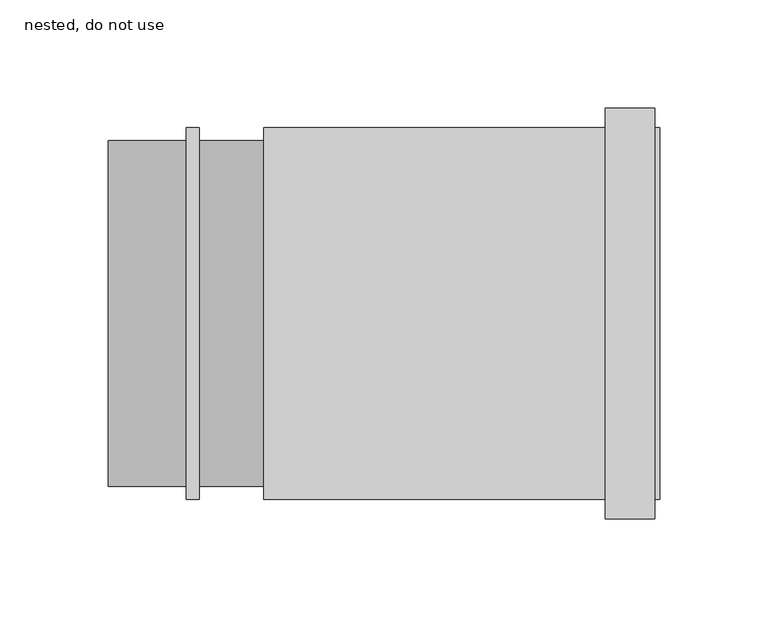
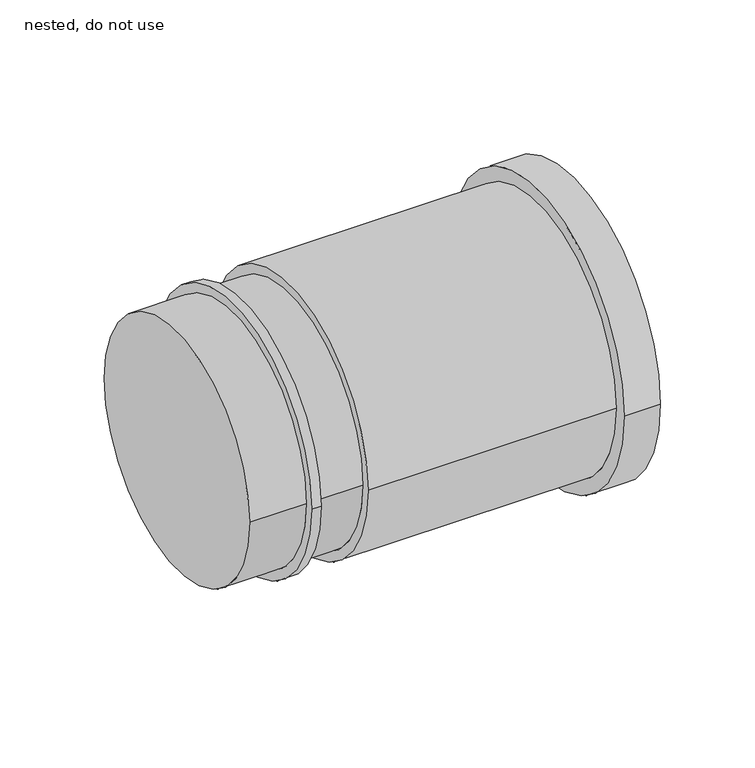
"""IFC4 building model written with IfcOpenShell, lengths in millimetres: pipe fitting geometry, ZZZ_do no use_PIF_HDPE expansion socket with anchor point -SH_Akatherm : nested, do not use."""

from ifc_helpers import new_model, si_unit, frame, origin, place, context, project, spatial, circle_curve, source, transform, mapped, element, save
from ifc_brep_helpers import plane_surface, cylinder_surface, advanced_brep


def nested_do_not_use_88acbfcf(model_context):
    return source(origin(), model_context, "Body", "AdvancedBrep", [
        advanced_brep(
        [(216.7, -95.0, 0.0), (216.7, 95.0, 0.0), (216.7, 86.0, 0.0), (216.7, -86.0, 0.0), (193.7, -95.0, 0.0), (193.7, 95.0, 0.0), (193.7, -86.0, 0.0), (193.7, 86.0, 0.0), (219.0, -86.0, 0.0), (219.0, 86.0, 0.0), (36.0, -86.0, 0.0), (36.0, 86.0, 0.0), (36.0, -80.0, 0.0), (36.0, 80.0, 0.0), (-36.0, -80.0, 0.0), (-36.0, 80.0, 0.0), (6.0, -80.0, 0.0), (6.0, 80.0, 0.0), (0.0, 80.0, 0.0), (0.0, -80.0, 0.0), (6.0, -86.0, 0.0), (6.0, 86.0, 0.0), (0.0, -86.0, 0.0), (0.0, 86.0, 0.0)],
        [
            (0, 1, circle_curve(frame((216.7, 0.0, 0.0), z_axis=(1.0, 0.0, 0.0), x_axis=(0.0, 1.0, 0.0)), 95.0)),
            (1, 0, circle_curve(frame((216.7, 0.0, 0.0), z_axis=(1.0, 0.0, 0.0), x_axis=(0.0, 1.0, 0.0)), 95.0)),
            (2, 3, circle_curve(frame((216.7, 0.0, 0.0), z_axis=(-1.0, 0.0, 0.0), x_axis=(0.0, 1.0, 0.0)), 86.0)),
            (3, 2, circle_curve(frame((216.7, 0.0, 0.0), z_axis=(-1.0, 0.0, 0.0), x_axis=(0.0, 1.0, 0.0)), 86.0)),
            (4, 5, circle_curve(frame((193.7, 0.0, 0.0), z_axis=(-1.0, 0.0, 0.0), x_axis=(0.0, 1.0, 0.0)), 95.0)),
            (5, 4, circle_curve(frame((193.7, 0.0, 0.0), z_axis=(-1.0, 0.0, 0.0), x_axis=(0.0, 1.0, 0.0)), 95.0)),
            (6, 7, circle_curve(frame((193.7, 0.0, 0.0), z_axis=(1.0, 0.0, 0.0), x_axis=(0.0, 1.0, 0.0)), 86.0)),
            (7, 6, circle_curve(frame((193.7, 0.0, 0.0), z_axis=(1.0, 0.0, 0.0), x_axis=(0.0, 1.0, 0.0)), 86.0)),
            (0, 4),
            (5, 1),
            (8, 9, circle_curve(frame((219.0, 0.0, 0.0), z_axis=(1.0, 0.0, 0.0), x_axis=(0.0, 1.0, 0.0)), 86.0)),
            (9, 8, circle_curve(frame((219.0, 0.0, 0.0), z_axis=(1.0, 0.0, 0.0), x_axis=(0.0, 1.0, 0.0)), 86.0)),
            (10, 11, circle_curve(frame((36.0, 0.0, 0.0), z_axis=(-1.0, 0.0, 0.0), x_axis=(0.0, 1.0, 0.0)), 86.0)),
            (11, 10, circle_curve(frame((36.0, 0.0, 0.0), z_axis=(-1.0, 0.0, 0.0), x_axis=(0.0, 1.0, 0.0)), 86.0)),
            (12, 13, circle_curve(frame((36.0, 0.0, 0.0), z_axis=(1.0, 0.0, 0.0), x_axis=(0.0, 1.0, 0.0)), 80.0)),
            (13, 12, circle_curve(frame((36.0, 0.0, 0.0), z_axis=(1.0, 0.0, 0.0), x_axis=(0.0, 1.0, 0.0)), 80.0)),
            (8, 3),
            (2, 9),
            (11, 7),
            (6, 10),
            (14, 15, circle_curve(frame((-36.0, 0.0, 0.0), z_axis=(-1.0, 0.0, 0.0), x_axis=(0.0, 1.0, 0.0)), 80.0)),
            (15, 14, circle_curve(frame((-36.0, 0.0, 0.0), z_axis=(-1.0, 0.0, 0.0), x_axis=(0.0, 1.0, 0.0)), 80.0)),
            (12, 16),
            (16, 17, circle_curve(frame((6.0, 0.0, 0.0), z_axis=(1.0, 0.0, 0.0), x_axis=(0.0, 1.0, 0.0)), 80.0)),
            (17, 13),
            (15, 18),
            (18, 19, circle_curve(frame((0.0, 0.0, 0.0), z_axis=(-1.0, 0.0, 0.0), x_axis=(0.0, 1.0, 0.0)), 80.0)),
            (19, 14),
            (17, 16, circle_curve(frame((6.0, 0.0, 0.0), z_axis=(1.0, 0.0, 0.0), x_axis=(0.0, 1.0, 0.0)), 80.0)),
            (19, 18, circle_curve(frame((0.0, 0.0, 0.0), z_axis=(-1.0, 0.0, 0.0), x_axis=(0.0, 1.0, 0.0)), 80.0)),
            (20, 21, circle_curve(frame((6.0, 0.0, 0.0), z_axis=(1.0, 0.0, 0.0), x_axis=(0.0, 1.0, 0.0)), 86.0)),
            (21, 20, circle_curve(frame((6.0, 0.0, 0.0), z_axis=(1.0, 0.0, 0.0), x_axis=(0.0, 1.0, 0.0)), 86.0)),
            (22, 23, circle_curve(frame((0.0, 0.0, 0.0), z_axis=(-1.0, 0.0, 0.0), x_axis=(0.0, 1.0, 0.0)), 86.0)),
            (23, 22, circle_curve(frame((0.0, 0.0, 0.0), z_axis=(-1.0, 0.0, 0.0), x_axis=(0.0, 1.0, 0.0)), 86.0)),
            (20, 22),
            (23, 21),
        ],
        [
            plane_surface(frame((216.7, 95.0, 0.0), z_axis=(1.0, 0.0, 0.0), x_axis=(0.0, 0.0, 1.0))),
            plane_surface(frame((193.7, 95.0, 0.0), z_axis=(-1.0, 0.0, 0.0), x_axis=(0.0, 0.0, -1.0))),
            cylinder_surface(frame((193.7, 0.0, 0.0), z_axis=(1.0, 0.0, 0.0), x_axis=(0.0, 1.0, 0.0)), 95.0),
            plane_surface(frame((219.0, 86.0, 0.0), z_axis=(1.0, 0.0, 0.0), x_axis=(0.0, 0.0, 1.0))),
            plane_surface(frame((36.0, 86.0, 0.0), z_axis=(-1.0, 0.0, 0.0), x_axis=(0.0, 0.0, -1.0))),
            cylinder_surface(frame((36.0, 0.0, 0.0), z_axis=(1.0, 0.0, 0.0), x_axis=(0.0, 1.0, 0.0)), 86.0),
            plane_surface(frame((-36.0, 80.0, 0.0), z_axis=(-1.0, 0.0, 0.0), x_axis=(0.0, 0.0, -1.0))),
            cylinder_surface(frame((39.0, 0.0, 0.0), z_axis=(-1.0, 0.0, 0.0), x_axis=(0.0, 1.0, 0.0)), 80.0),
            plane_surface(frame((6.0, 86.0, 0.0), z_axis=(1.0, 0.0, 0.0), x_axis=(0.0, 0.0, 1.0))),
            plane_surface(frame((0.0, 86.0, 0.0), z_axis=(-1.0, 0.0, 0.0), x_axis=(0.0, 0.0, -1.0))),
            cylinder_surface(frame((0.0, 0.0, 0.0), z_axis=(1.0, 0.0, 0.0), x_axis=(0.0, 1.0, 0.0)), 86.0),
        ],
        [
            (0, [[1, 2], [3, 4]]),
            (1, [[5, 6], [7, 8]]),
            (2, [[-1, 9, -6, 10]]),
            (2, [[-2, -10, -5, -9]]),
            (3, [[11, 12]]),
            (4, [[13, 14], [15, 16]]),
            (5, [[-11, 17, -3, 18]]),
            (5, [[-14, 19, -7, 20]]),
            (5, [[-12, -18, -4, -17]]),
            (5, [[-13, -20, -8, -19]]),
            (6, [[21, 22]]),
            (7, [[-15, 23, 24, 25]]),
            (7, [[-22, 26, 27, 28]]),
            (7, [[-16, -25, 29, -23]]),
            (7, [[-21, -28, 30, -26]]),
            (8, [[31, 32], [-24, -29]]),
            (9, [[33, 34], [-27, -30]]),
            (10, [[-31, 35, -34, 36]]),
            (10, [[-32, -36, -33, -35]]),
        ],
    ),
    ])


if __name__ == "__main__":
    model = new_model("IFC4")
    model_context = context("Model", 3, world=origin())
    ifc_project = project(units=[si_unit("LENGTHUNIT", "METRE", prefix="MILLI")], contexts=[model_context])
    site = spatial("IfcSite", under=ifc_project)
    building = spatial("IfcBuilding", under=site)
    placement = place(None, origin())
    nested_do_not_use_shape = nested_do_not_use_88acbfcf(model_context)
    element("IfcPipeFitting", 1, ObjectType="ZZZ_do no use_PIF_HDPE expansion socket with anchor point -SH_Akatherm : nested, do not use", at=placement, inside=building, context=model_context, shape_type="MappedRepresentation", body=[
        mapped(nested_do_not_use_shape, transform((0.0, 0.0, 0.0), x_axis=(1.0, 0.0, 0.0), y_axis=(0.0, 1.0, 0.0), z_axis=(0.0, 0.0, 1.0))),
    ])
    save(model, "model.ifc")
